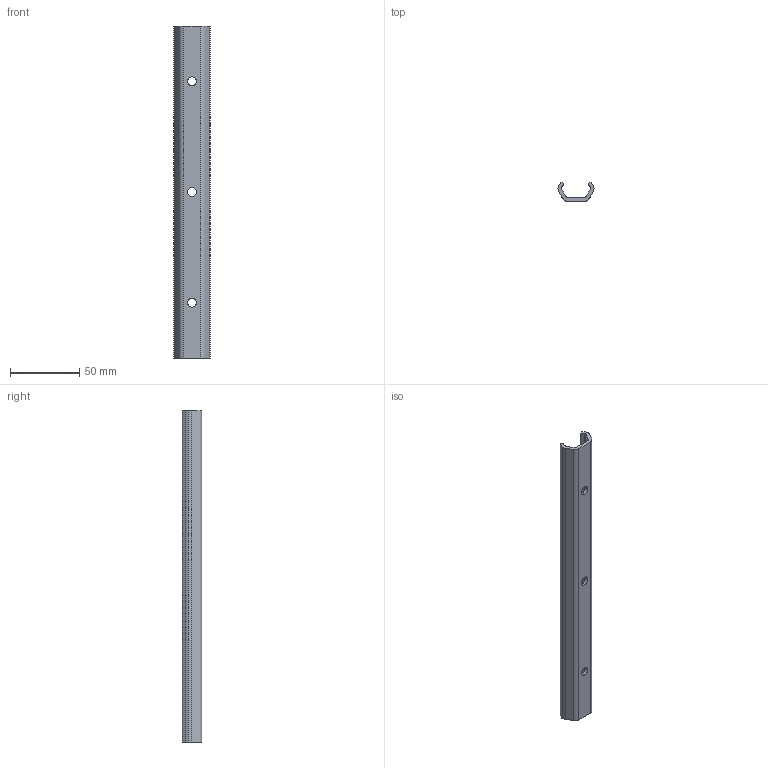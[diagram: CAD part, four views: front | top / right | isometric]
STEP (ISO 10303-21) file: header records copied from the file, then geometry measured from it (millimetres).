
FILE_DESCRIPTION(('STEP AP214'),'1');
FILE_NAME('rail_tex26-240.stp','2019-03-08T08:28:45',('TraceParts'),('TraceParts S.A.'),'Spatial InterOp 3D',' ',' ');
FILE_SCHEMA(('automotive_design'));
Length unit declared in the file: millimetre
Products named in the file (1): rail_tex26-240
Bounding box: 26.06 x 14 x 240 mm (x, y, z)
Volume: 24840.1 mm3; surface area: 21354.4 mm2
Topology: 1 solids, 1 shells, 89 faces, 234 edges, 156 vertices
Faces by surface type: plane 60, cylinder 18, bspline 11
Entity records: 5163 total; most frequent: CARTESIAN_POINT 2247, ORIENTED_EDGE 468, DIRECTION 406, EDGE_CURVE 234, LINE 176, VECTOR 176, VERTEX_POINT 156, AXIS2_PLACEMENT_3D 115
